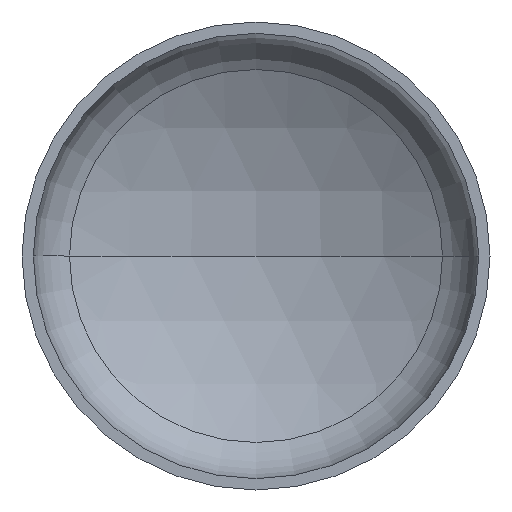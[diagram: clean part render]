
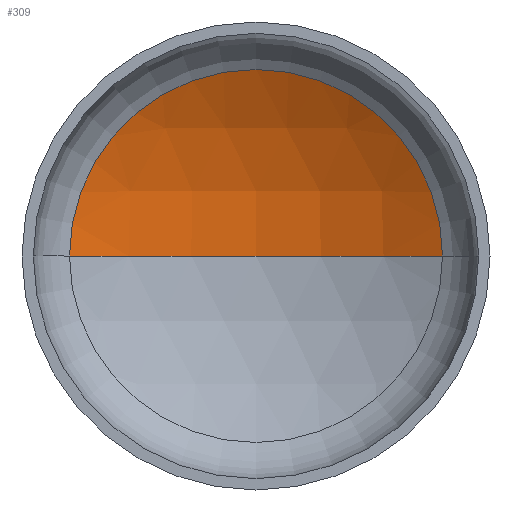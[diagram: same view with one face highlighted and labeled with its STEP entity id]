
A CAD part, front view. The second image highlights one B-rep face of the part: STEP entity #309.
In plain terms, the highlighted spherical face has radius 3040 mm.
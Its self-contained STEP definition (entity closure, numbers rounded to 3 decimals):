
#5 = CARTESIAN_POINT ( 'NONE',  ( 1514.428, 607.242, 0. ) ) ;
#6 = AXIS2_PLACEMENT_3D ( 'NONE', #95, #97, #310 ) ;
#7 = AXIS2_PLACEMENT_3D ( 'NONE', #103, #367, #249 ) ;
#24 = ORIENTED_EDGE ( 'NONE', *, *, #337, .T. ) ;
#27 = AXIS2_PLACEMENT_3D ( 'NONE', #113, #147, #85 ) ;
#30 = AXIS2_PLACEMENT_3D ( 'NONE', #152, #166, #168 ) ;
#80 = CARTESIAN_POINT ( 'NONE',  ( -1514.428, 607.242, 0. ) ) ;
#85 = DIRECTION ( 'NONE',  ( -1., 0., 0. ) ) ;
#95 = CARTESIAN_POINT ( 'NONE',  ( 0., -2028.684, 0. ) ) ;
#97 = DIRECTION ( 'NONE',  ( 0., 0., 1. ) ) ;
#103 = CARTESIAN_POINT ( 'NONE',  ( 0., -2028.684, 0. ) ) ;
#107 = EDGE_LOOP ( 'NONE', ( #408, #24, #313 ) ) ;
#113 = CARTESIAN_POINT ( 'NONE',  ( 0., -2028.684, 0. ) ) ;
#115 = EDGE_CURVE ( 'NONE', #125, #405, #120, .T. ) ;
#120 = CIRCLE ( 'NONE', #30, 1514.428 ) ;
#125 = VERTEX_POINT ( 'NONE', #5 ) ;
#147 = DIRECTION ( 'NONE',  ( 0., 0., -1. ) ) ;
#152 = CARTESIAN_POINT ( 'NONE',  ( 0., 607.242, 0. ) ) ;
#166 = DIRECTION ( 'NONE',  ( 0., -1., 0. ) ) ;
#168 = DIRECTION ( 'NONE',  ( 1., 0., 0. ) ) ;
#179 = VERTEX_POINT ( 'NONE', #212 ) ;
#212 = CARTESIAN_POINT ( 'NONE',  ( 0., 1011.316, 0. ) ) ;
#249 = DIRECTION ( 'NONE',  ( -1., 0., 0. ) ) ;
#299 = CIRCLE ( 'NONE', #6, 3040. ) ;
#309 = ADVANCED_FACE ( 'NONE', ( #329 ), #399, .F. ) ;
#310 = DIRECTION ( 'NONE',  ( 1., 0., 0. ) ) ;
#313 = ORIENTED_EDGE ( 'NONE', *, *, #115, .T. ) ;
#329 = FACE_OUTER_BOUND ( 'NONE', #107, .T. ) ;
#337 = EDGE_CURVE ( 'NONE', #179, #125, #387, .T. ) ;
#344 = EDGE_CURVE ( 'NONE', #179, #405, #299, .T. ) ;
#367 = DIRECTION ( 'NONE',  ( 0., 0., -1. ) ) ;
#387 = CIRCLE ( 'NONE', #7, 3040. ) ;
#399 = SPHERICAL_SURFACE ( 'NONE', #27, 3040. ) ;
#405 = VERTEX_POINT ( 'NONE', #80 ) ;
#408 = ORIENTED_EDGE ( 'NONE', *, *, #344, .F. ) ;
